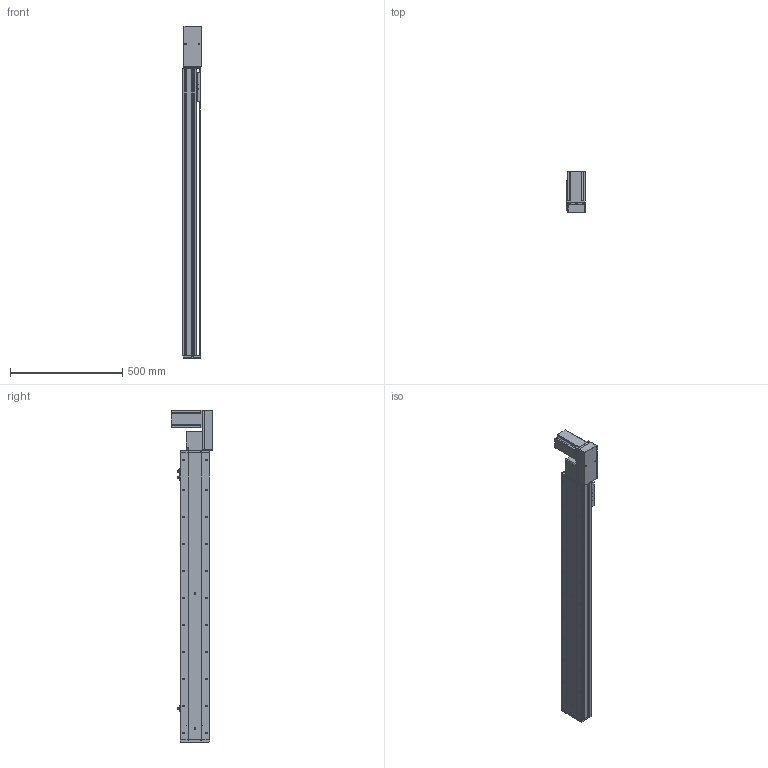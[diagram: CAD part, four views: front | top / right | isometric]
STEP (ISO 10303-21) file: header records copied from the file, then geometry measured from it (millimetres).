
FILE_DESCRIPTION (( 'STEP AP214' ), '1' );
FILE_NAME ('KSD130B-S1050-MLB-CM.STEP', '2019-11-14T02:21:40', ( '微软用户' ), ( '微软中国' ), 'SwSTEP 2.0', 'SolidWorks 2014', '' );
FILE_SCHEMA (( 'AUTOMOTIVE_DESIGN' ));
Length unit declared in the file: millimetre
Products named in the file (12): 130宽模组保护罩上下左右折-同步带; 130宽模组马达安装板连板左右折同步带; 覜茼え100遵圉猾敕; U倰嫖萇EEㄜSX672; 130宽盖板半封闭同步带-1050行程; 130宽马达安装板同步带左-改; 130宽马达安装板同步带半封闭; 130宽同步带安装座半封闭; 130宽端盖同步带半封闭; 130宽底板半封闭同步带-1050行程; KSD130B-S1050-MLB-CM; 台达ECMA－C20807AS伺服电机
Assembly tree (13 placements, depth 2):
  KSD130B-S1050-MLB-CM
    130宽底板半封闭同步带-1050行程
    130宽端盖同步带半封闭
    130宽同步带安装座半封闭
    130宽马达安装板同步带半封闭
    130宽马达安装板同步带左-改
    130宽盖板半封闭同步带-1050行程
    U倰嫖萇EEㄜSX672  x3
    覜茼え100遵圉猾敕
    130宽模组马达安装板连板左右折同步带
    130宽模组保护罩上下左右折-同步带
    台达ECMA－C20807AS伺服电机
Bounding box: 82.5 x 184.8 x 1477 mm (x, y, z)
Volume: 5123513.7 mm3; surface area: 1403144.7 mm2
Topology: 14 solids, 14 shells, 1547 faces, 4421 edges, 2821 vertices
Faces by surface type: cylinder 742, plane 626, cone 179
Entity records: 50999 total; most frequent: CARTESIAN_POINT 9486, DIRECTION 7755, ORIENTED_EDGE 7470, EDGE_CURVE 3735, AXIS2_PLACEMENT_3D 2830, VERTEX_POINT 2445, VECTOR 2095, LINE 2095
